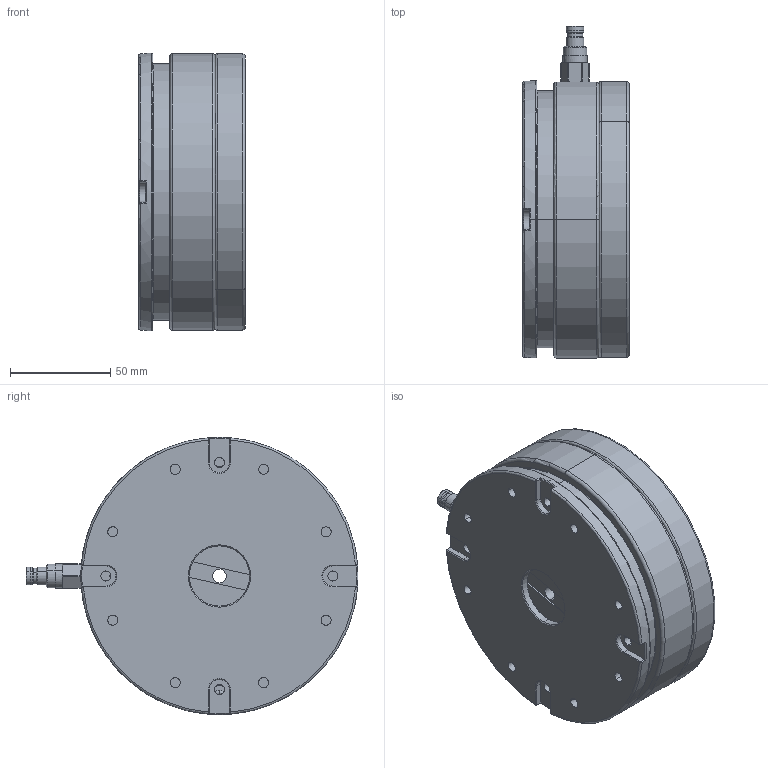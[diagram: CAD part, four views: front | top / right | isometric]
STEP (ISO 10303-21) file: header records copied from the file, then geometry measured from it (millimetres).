
FILE_DESCRIPTION (( 'STEP AP214' ), '1' );
FILE_NAME ('LQTMS-20.STEP', '2022-09-13T08:54:42', ( '' ), ( '' ), 'SwSTEP 2.0', 'SolidWorks 2018', '' );
FILE_SCHEMA (( 'AUTOMOTIVE_DESIGN' ));
Length unit declared in the file: millimetre
Products named in the file (1): LQTMS-20
Bounding box: 53 x 165.3 x 138 mm (x, y, z)
Surface area: 154914.9 mm2 (no closed solid volume)
Topology: 0 solids, 32 shells, 1002 faces, 2425 edges, 1462 vertices
Faces by surface type: plane 333, cylinder 288, cone 218, torus 113, sphere 32, bspline 18
Entity records: 43481 total; most frequent: CARTESIAN_POINT 8986, DIRECTION 5238, ORIENTED_EDGE 4474, EDGE_CURVE 2335, AXIS2_PLACEMENT_3D 2123, VERTEX_POINT 1446, EDGE_LOOP 1150, CIRCLE 1138
